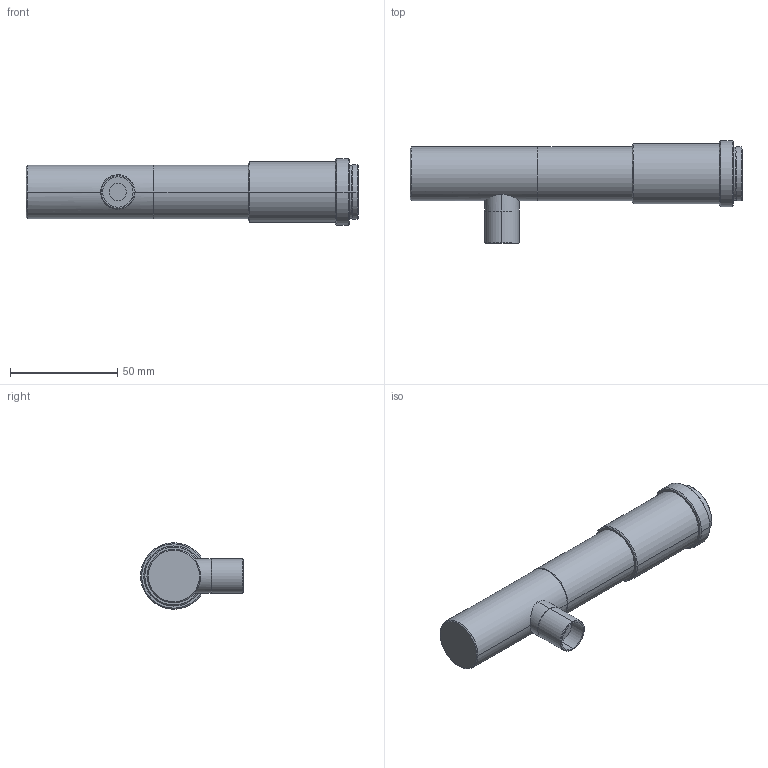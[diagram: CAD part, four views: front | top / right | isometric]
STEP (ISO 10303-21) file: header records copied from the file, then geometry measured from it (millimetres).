
FILE_DESCRIPTION (( 'STEP AP203' ), '1' );
FILE_NAME ('VS-TCM5-50CO.STEP', '2015-03-05T04:13:05', ( 'miura_vst' ), ( '' ), 'SwSTEP 2.0', 'SolidWorks 2015', '' );
FILE_SCHEMA (( 'CONFIG_CONTROL_DESIGN' ));
Length unit declared in the file: millimetre
Products named in the file (1): VS-TCM5-50CO
Bounding box: 154.9 x 48 x 31 mm (x, y, z)
Volume: 85396.2 mm3; surface area: 15695.9 mm2
Topology: 1 solids, 1 shells, 50 faces, 105 edges, 62 vertices
Faces by surface type: cone 22, cylinder 20, plane 8
Entity records: 1496 total; most frequent: CARTESIAN_POINT 310, DIRECTION 261, ORIENTED_EDGE 210, AXIS2_PLACEMENT_3D 109, EDGE_CURVE 105, VERTEX_POINT 62, CIRCLE 58, EDGE_LOOP 55
